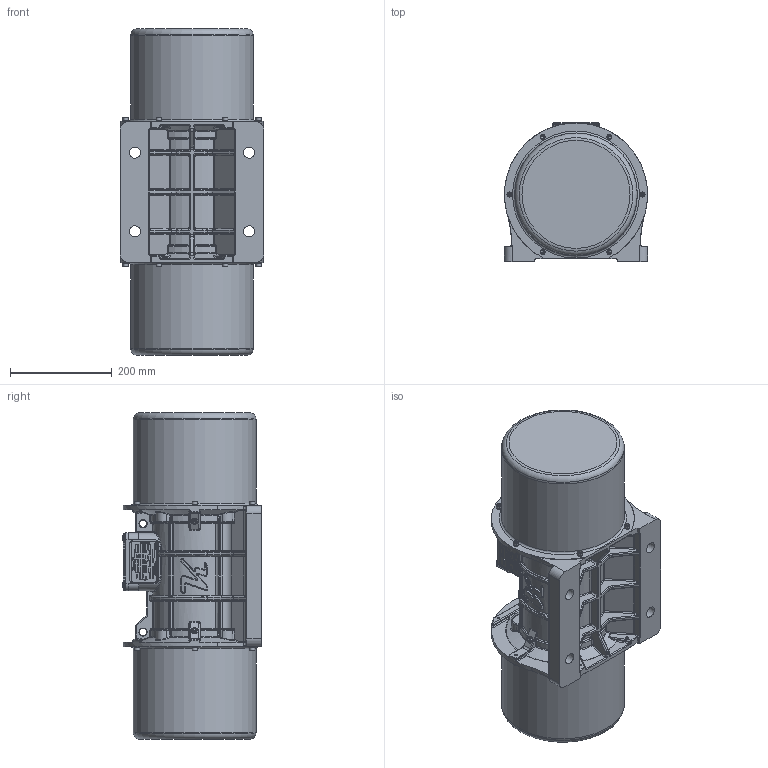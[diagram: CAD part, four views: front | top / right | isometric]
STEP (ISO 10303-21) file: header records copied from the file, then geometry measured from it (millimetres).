
FILE_DESCRIPTION(/* description */ (''),/* implementation_level */ '2;1');
FILE_NAME(/* name */ '',/* time_stamp */ '2026-09-02T16:49:57+03:00',/* author */ ('PC'),/* organization */ (''),/* preprocessor_version */ 'ST-DEVELOPER v20.1',/* originating_system */ 'Autodesk Inventor 2026',/* authorisation */ '');
FILE_SCHEMA (('AUTOMOTIVE_DESIGN { 1 0 10303 214 3 1 1 }'));
Products named in the file (1): 6 NO 750 DEVİR
Bounding box: 282 x 273.5 x 643.5 mm (x, y, z)
Volume: 25819394 mm3; surface area: 872505.4 mm2
Topology: 1 solids, 31 shells, 5619 faces, 14716 edges, 9336 vertices
Faces by surface type: plane 2652, bspline 1441, cylinder 785, torus 403, sphere 176, cone 162
Full cylindrical faces by diameter (mm): 3 x4, 4.917 x18, 6 x12, 6.4 x12, 6.8 x12, 8.376 x8, 10 x16, 10.5 x4, 14 x7, 15 x1, 20 x1, 22 x5, 42 x4, 242 x2
Entity records: 219055 total; most frequent: CARTESIAN_POINT 87187, ORIENTED_EDGE 29164, DIRECTION 22670, EDGE_CURVE 14582, VERTEX_POINT 9336, LINE 8174, VECTOR 8174, AXIS2_PLACEMENT_3D 7248
